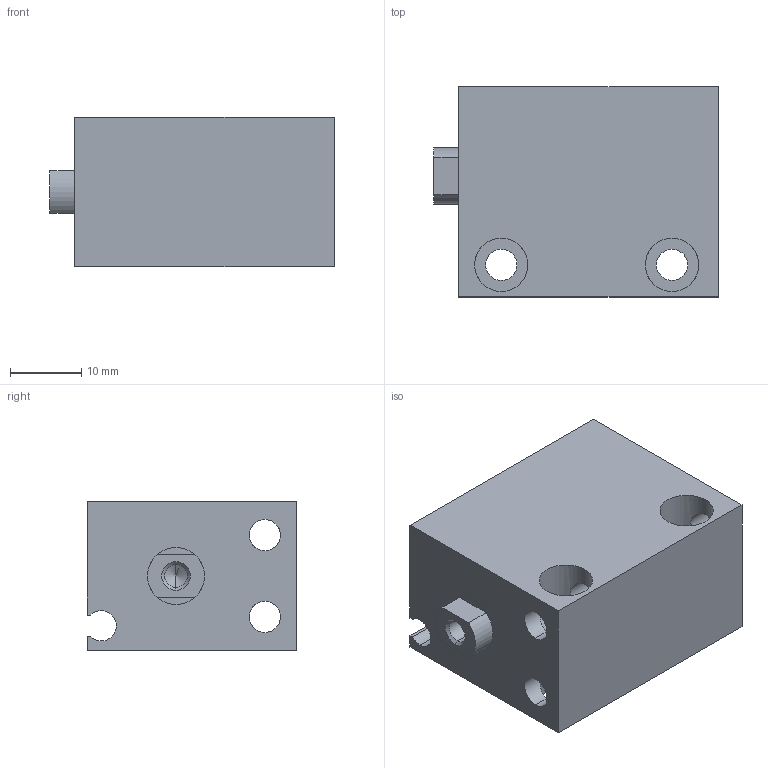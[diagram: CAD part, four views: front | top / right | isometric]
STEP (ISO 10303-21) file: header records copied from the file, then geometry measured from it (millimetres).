
FILE_DESCRIPTION (( 'STEP AP203' ), '1' );
FILE_NAME ('CLJB16-20.STEP', '2020-07-30T19:23:26', ( '' ), ( '' ), 'SwSTEP 2.0', 'SolidWorks 2019', '' );
FILE_SCHEMA (( 'CONFIG_CONTROL_DESIGN' ));
Length unit declared in the file: millimetre
Products named in the file (1): CLJB16-20
Bounding box: 40 x 29.5 x 21 mm (x, y, z)
Volume: 16991.6 mm3; surface area: 9408.8 mm2
Topology: 2 solids, 2 shells, 75 faces, 188 edges, 113 vertices
Faces by surface type: cylinder 41, plane 22, cone 12
Entity records: 3119 total; most frequent: CARTESIAN_POINT 1223, DIRECTION 394, ORIENTED_EDGE 364, EDGE_CURVE 182, AXIS2_PLACEMENT_3D 152, VERTEX_POINT 113, EDGE_LOOP 93, VECTOR 90
